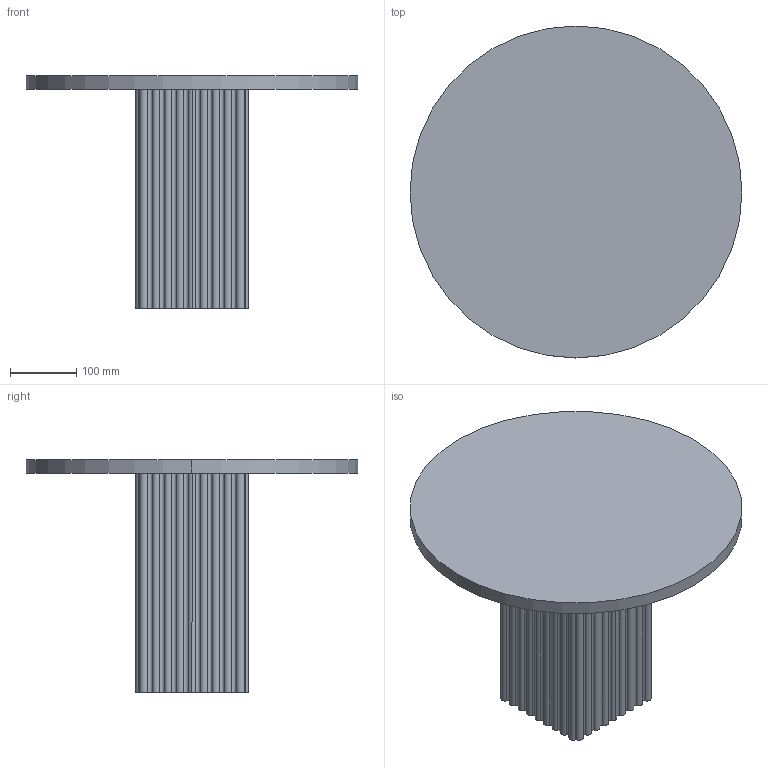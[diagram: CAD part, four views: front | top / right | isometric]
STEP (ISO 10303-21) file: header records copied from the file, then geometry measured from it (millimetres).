
FILE_DESCRIPTION(/* description */ (''),/* implementation_level */ '2;1');
FILE_NAME(/* name */ 'Soho-Coffee-Table_NORR11',/* time_stamp */ '2024-11-15T12:59:56+01:00',/* author */ (''),/* organization */ (''),/* preprocessor_version */ 'ST-DEVELOPER v19.2',/* originating_system */ 'Rhino 8.13',/* authorisation */ '');
FILE_SCHEMA (('CONFIG_CONTROL_DESIGN'));
Length unit declared in the file: millimetre
Products named in the file (1): Document
Bounding box: 500 x 500 x 350 mm (x, y, z)
Volume: 12793261.9 mm3; surface area: 749512.7 mm2
Topology: 2 solids, 2 shells, 82 faces, 234 edges, 156 vertices
Faces by surface type: cylinder 78, plane 4
Entity records: 3166 total; most frequent: CARTESIAN_POINT 864, ORIENTED_EDGE 468, DIRECTION 398, AXIS2_PLACEMENT_3D 240, EDGE_CURVE 234, TRIMMED_CURVE 156, CIRCLE 156, VERTEX_POINT 156
